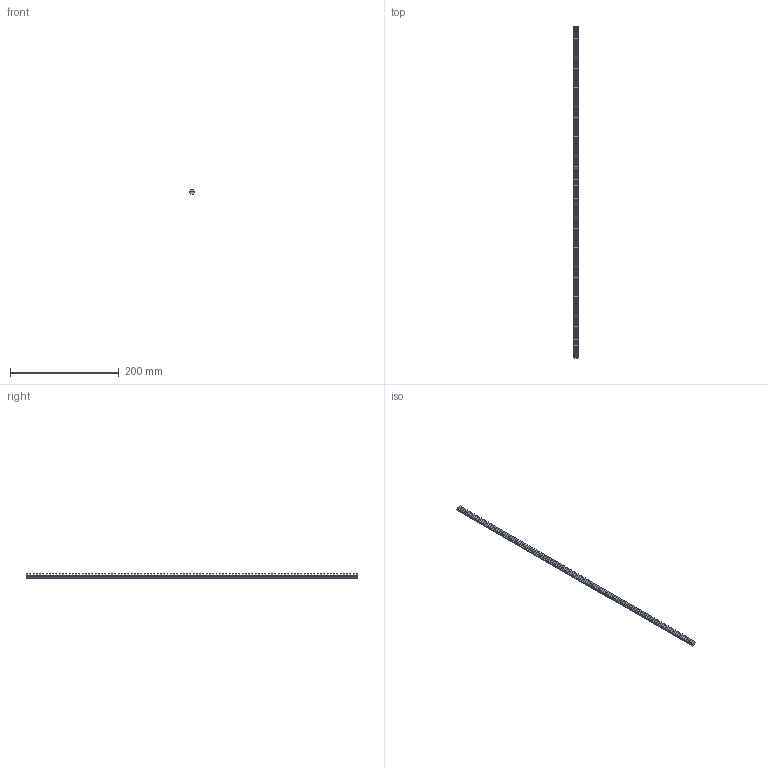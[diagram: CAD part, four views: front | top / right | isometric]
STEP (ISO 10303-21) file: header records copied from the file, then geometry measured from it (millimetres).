
FILE_DESCRIPTION(/* description */ ('STEP AP242 Edition 2','CAx-IF Rec.Pracs.---Representation and Presentation of Product Manufacturing Information (PMI)---4.0---2014-10-13','CAx-IF Rec.Pracs.---3D Tessellated Geometry---0.4---2014-09-14','2;1','CAx-IF Rec.Pracs.---User Defined Attributes---1.5---2016-08-15'),/* implementation_level */ '2;1');
FILE_NAME(/* name */ 'Gear Rack Y-Axis',/* time_stamp */ '2025-11-29T19:54:07Z',/* author */ (''),/* organization */ (''),/* preprocessor_version */ 'ST-DEVELOPER v20',/* originating_system */ 'ONSHAPE BY PTC INC, 1.207',/* authorisation */ ' ');
FILE_SCHEMA (('AP242_MANAGED_MODEL_BASED_3D_ENGINEERING_MIM_LF { 1 0 10303 442 3 1 4 }'));
Length unit declared in the file: metre
Products named in the file (1): Gear Rack
Bounding box: 11 x 610 x 7.72 mm (x, y, z)
Volume: 30231.5 mm3; surface area: 22066.8 mm2
Topology: 1 solids, 1 shells, 520 faces, 1250 edges, 832 vertices
Faces by surface type: plane 518, cylinder 2
Entity records: 14808 total; most frequent: CARTESIAN_POINT 2603, ORIENTED_EDGE 2500, DIRECTION 2296, EDGE_CURVE 1250, LINE 1246, VECTOR 1246, VERTEX_POINT 832, EDGE_LOOP 620
